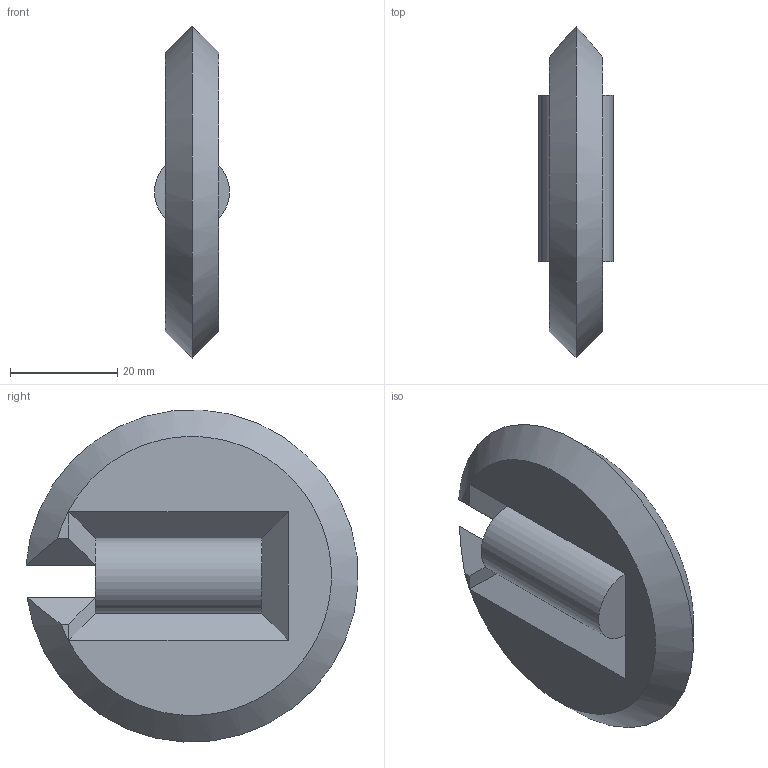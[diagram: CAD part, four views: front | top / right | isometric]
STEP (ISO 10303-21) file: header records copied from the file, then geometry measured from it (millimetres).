
FILE_DESCRIPTION(('STEP AP242'), '1');
FILE_NAME('青耠铐赅', '', ('UNSPECIFIED'), ('UNSPECIFIED'), 'C3D Converter', 'C3D Toolkit', '');
FILE_SCHEMA(('AP242_MANAGED_MODEL_BASED_3D_ENGINEERING_MIM_LF { 1 0 10303 442 1 1 4 }'));
Length unit declared in the file: millimetre
Bounding box: 14 x 61.89 x 61.91 mm (x, y, z)
Volume: 21529.4 mm3; surface area: 8516.4 mm2
Topology: 2 solids, 2 shells, 24 faces, 49 edges, 30 vertices
Faces by surface type: plane 20, cylinder 2, cone 2
Full cylindrical faces by diameter (mm): 14 x1
Entity records: 713 total; most frequent: CARTESIAN_POINT 167, DIRECTION 101, ORIENTED_EDGE 96, EDGE_CURVE 48, LINE 37, VECTOR 37, AXIS2_PLACEMENT_3D 32, VERTEX_POINT 30
